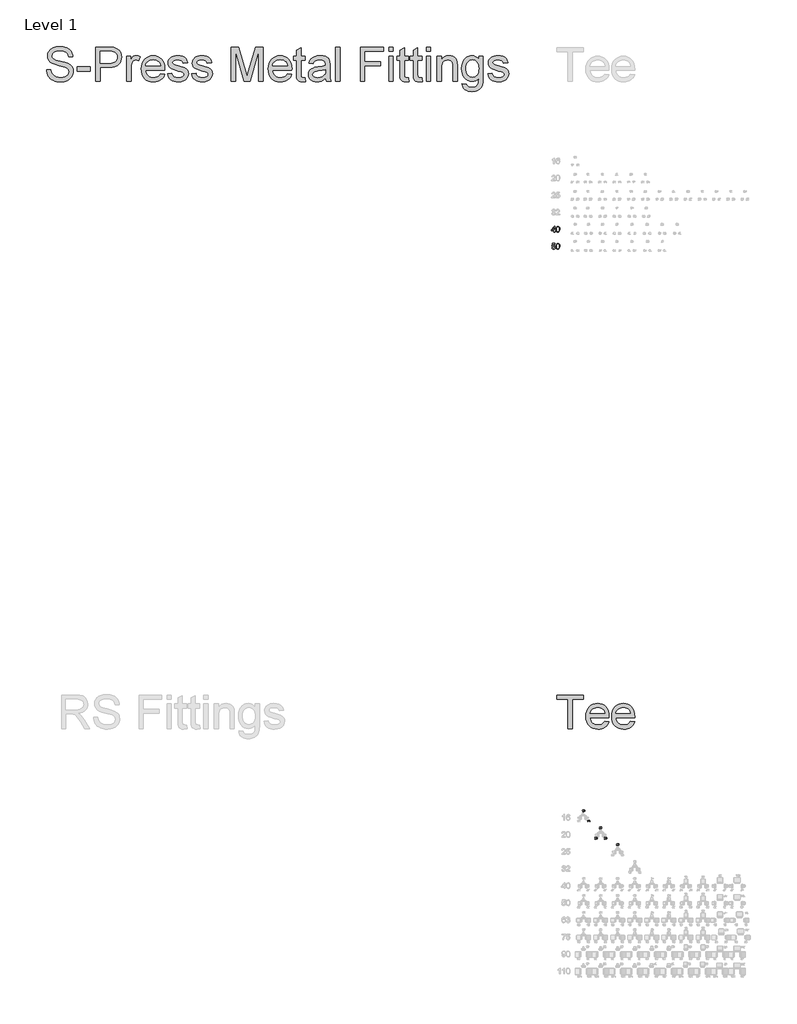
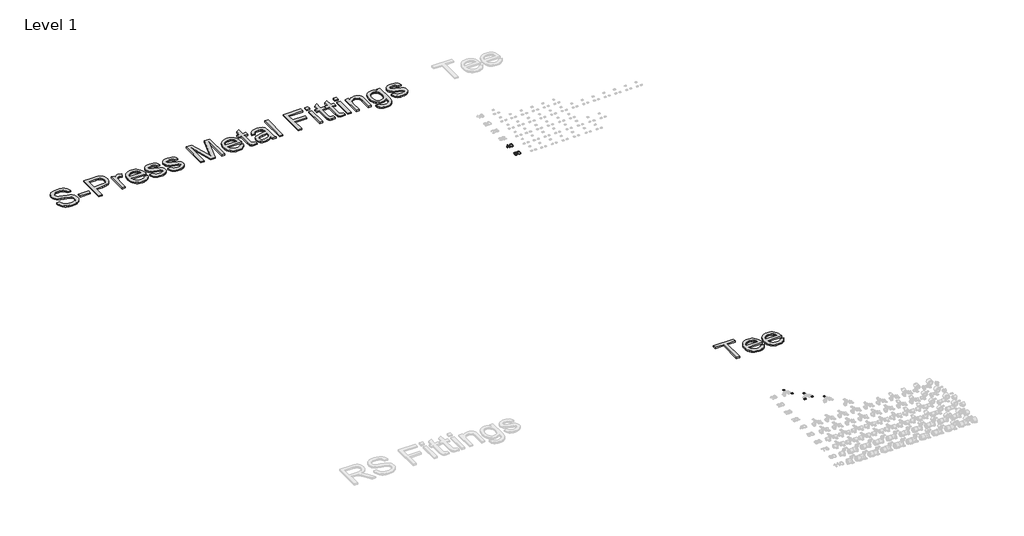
# One storey, part 26 of 58: 10 proxies.
"""IFC4 building model written with IfcOpenShell, lengths in millimetres."""

from ifc_helpers import new_model, si_unit, frame, origin, place, context, project, spatial, polyline, outline, extrude, element, save

model = new_model("IFC4")

# Units and contexts
model_context = context("Model", 3, world=origin())
ifc_project = project(units=[si_unit("LENGTHUNIT", "METRE", prefix="MILLI")], contexts=[model_context])

# Site, building, storey
site = spatial("IfcSite", under=ifc_project)
building = spatial("IfcBuilding", under=site)
storey = spatial("IfcBuildingStorey", under=building, Name="Level 1", Elevation=27.3876384)

# Proxies
placement = place(None, origin())
element("IfcBuildingElementProxy", 1, Name="100mm Arial", ObjectType="100mm Arial", at=placement, inside=storey, context=model_context, shape_type="SweptSolid", body=[
    extrude(outline(polyline([(12745.2918533, 28940.2967064), (12745.2918533, 28963.841154), (12699.7725878, 28963.841154), (12699.7725878, 28976.3981928), (12748.431113, 29039.1833867), (12757.8488921, 29039.1833867), (12757.8488921, 28976.3981928), (12770.4059308, 28976.3981928), (12770.4059308, 28963.841154), (12757.8488921, 28963.841154), (12757.8488921, 28940.2967064), (12745.2918533, 28940.2967064)]), holes=[polyline([(12745.2918533, 28976.3981928), (12745.2918533, 29015.1974806), (12715.2236316, 28976.3981928), (12745.2918533, 28976.3981928)])]), frame((0.0, 0.0, 27.3876384), z_axis=(0.0, 0.0, 1.0), x_axis=(1.0, 0.0, 0.0)), (0.0, 0.0, 1.0), 2.0),
    extrude(outline(polyline([(12781.3933398, 28989.715521), (12785.0844224, 29018.6187831), (12796.0473059, 29035.2838375), (12814.3555665, 29040.7530165), (12829.0217954, 29037.5156549), (12839.150813, 29028.183715), (12845.0369249, 29013.3212824), (12847.3177933, 28989.715521), (12843.6634988, 28960.9348863), (12832.7374036, 28944.2330437), (12824.5060439, 28940.1035683), (12814.3555665, 28938.7270765), (12801.3080184, 28941.1183095), (12791.39973, 28948.2920084), (12783.8949373, 28965.2820252), (12781.3933398, 28989.715521)]), holes=[polyline([(12793.9503785, 28989.7400465), (12795.4219065, 28969.987849), (12799.8364905, 28958.555916), (12806.4093154, 28953.1020655), (12814.3555665, 28951.2841153), (12822.3018176, 28953.1081968), (12828.8746426, 28958.5804415), (12833.2892265, 28970.0185059), (12834.7607545, 28989.7400465), (12833.3382775, 29009.0477199), (12829.0708463, 29020.5685577), (12822.5102841, 29026.2891227), (12814.2084137, 29028.1959777), (12806.3480018, 29026.5159833), (12800.0326942, 29021.476), (12795.4709574, 29009.2377923), (12793.9503785, 28989.7400465)])]), frame((0.0, 0.0, 27.3876384), z_axis=(0.0, 0.0, 1.0), x_axis=(1.0, 0.0, 0.0)), (0.0, 0.0, 1.0), 2.0),
])
element("IfcBuildingElementProxy", 2, Name="100mm Arial", ObjectType="100mm Arial", at=placement, inside=storey, context=model_context, shape_type="SweptSolid", body=[
    extrude(outline(polyline([(12704.4814773, 28666.9804137), (12717.0385161, 28668.5500436), (12723.3660864, 28655.6128601), (12736.4872109, 28651.2841153), (12745.488057, 28652.7893658), (12752.2325603, 28657.3051173), (12756.4448091, 28664.3102036), (12757.8488921, 28673.2834586), (12752.5881795, 28688.1949421), (12745.981632, 28692.2968264), (12736.6834146, 28693.6641211), (12725.6592175, 28691.4813546), (12718.6081459, 28685.8159719), (12706.0511071, 28687.3856017), (12717.0385161, 28739.1833867), (12765.6970413, 28739.1833867), (12765.6970413, 28726.6263479), (12727.1920591, 28726.6263479), (12721.820982, 28698.9616219), (12730.7911713, 28704.4062754), (12740.1905563, 28706.2211599), (12751.9229263, 28703.9709484), (12761.6626021, 28697.2203137), (12768.2200987, 28686.9318806), (12770.4059308, 28674.0682735), (12768.4377622, 28661.5112347), (12762.5332561, 28650.7690805), (12751.2270162, 28641.7375775), (12736.43816, 28638.7270765), (12724.1049161, 28640.6615227), (12714.2794011, 28646.4648611), (12707.5440949, 28655.4626416), (12704.4814773, 28666.9804137)])), frame((0.0, 0.0, 27.3876384), z_axis=(0.0, 0.0, 1.0), x_axis=(1.0, 0.0, 0.0)), (0.0, 0.0, 1.0), 2.0),
    extrude(outline(polyline([(12781.3933398, 28689.715521), (12785.0844224, 28718.6187831), (12796.0473059, 28735.2838375), (12814.3555665, 28740.7530165), (12829.0217954, 28737.5156549), (12839.150813, 28728.183715), (12845.0369249, 28713.3212824), (12847.3177933, 28689.715521), (12843.6634988, 28660.9348863), (12832.7374036, 28644.2330437), (12824.5060439, 28640.1035683), (12814.3555665, 28638.7270765), (12801.3080184, 28641.1183095), (12791.39973, 28648.2920084), (12783.8949373, 28665.2820252), (12781.3933398, 28689.715521)]), holes=[polyline([(12793.9503785, 28689.7400465), (12795.4219065, 28669.987849), (12799.8364905, 28658.555916), (12806.4093154, 28653.1020655), (12814.3555665, 28651.2841153), (12822.3018176, 28653.1081968), (12828.8746426, 28658.5804415), (12833.2892265, 28670.0185059), (12834.7607545, 28689.7400465), (12833.3382775, 28709.0477199), (12829.0708463, 28720.5685577), (12822.5102841, 28726.2891227), (12814.2084137, 28728.1959777), (12806.3480018, 28726.5159833), (12800.0326942, 28721.476), (12795.4709574, 28709.2377923), (12793.9503785, 28689.7400465)])]), frame((0.0, 0.0, 27.3876384), z_axis=(0.0, 0.0, 1.0), x_axis=(1.0, 0.0, 0.0)), (0.0, 0.0, 1.0), 2.0),
])
element("IfcBuildingElementProxy", 3, Name="30mm Arial", ObjectType="30mm Arial", at=placement, inside=storey, context=model_context, shape_type="SweptSolid", body=[
    extrude(outline(polyline([(13345.4120986, 18575.8288539), (13341.644987, 18575.8288539), (13341.644987, 18599.3144405), (13338.0765317, 18596.7723759), (13334.1107637, 18594.870426), (13334.1107637, 18598.4315237), (13339.6326725, 18601.9558332), (13342.9840775, 18605.965747), (13345.4120986, 18605.965747), (13345.4120986, 18575.8288539)])), frame((0.0, 0.0, 27.3876384), z_axis=(0.0, 0.0, 1.0), x_axis=(1.0, 0.0, 0.0)), (0.0, 0.0, 1.0), 2.0),
    extrude(outline(polyline([(13373.6654359, 18597.9606348), (13369.8983242, 18597.4897458), (13368.4709421, 18600.631458), (13364.6964728, 18602.1986353), (13361.2972432, 18601.286288), (13358.725748, 18597.8613066), (13357.6552114, 18591.1474602), (13360.9771859, 18594.1530561), (13365.0937854, 18595.135301), (13371.4949321, 18592.4497625), (13374.1363248, 18585.511508), (13372.8928837, 18580.3133355), (13369.4715811, 18576.6345155), (13364.5346047, 18575.357965), (13356.8569075, 18578.7424793), (13353.8880998, 18589.8966614), (13357.1843225, 18602.5297291), (13364.9319173, 18605.965747), (13370.884248, 18603.839389), (13373.6654359, 18597.9606348)]), holes=[polyline([(13357.6552114, 18585.5703692), (13358.5270918, 18582.3072559), (13360.8447483, 18579.9380958), (13364.2402992, 18579.1250766), (13368.6806348, 18580.8099761), (13370.3692132, 18585.3864282), (13368.7027078, 18589.7679027), (13364.0857887, 18591.3681894), (13359.5277308, 18589.7679027), (13357.6552114, 18585.5703692)])]), frame((0.0, 0.0, 27.3876384), z_axis=(0.0, 0.0, 1.0), x_axis=(1.0, 0.0, 0.0)), (0.0, 0.0, 1.0), 2.0),
])
element("IfcBuildingElementProxy", 4, Name="30mm Arial", ObjectType="30mm Arial", at=placement, inside=storey, context=model_context, shape_type="SweptSolid", body=[
    extrude(outline(polyline([(13258.5902834, 18754.6474945), (13254.8231718, 18754.6474945), (13254.8231718, 18778.1330811), (13251.2547165, 18775.5910165), (13247.2889486, 18773.6890666), (13247.2889486, 18777.2501643), (13252.8108573, 18780.7744738), (13256.1622623, 18784.7843875), (13258.5902834, 18784.7843875), (13258.5902834, 18754.6474945)])), frame((0.0, 0.0, 27.3876384), z_axis=(0.0, 0.0, 1.0), x_axis=(1.0, 0.0, 0.0)), (0.0, 0.0, 1.0), 2.0),
    extrude(outline(polyline([(13286.8436207, 18776.7792753), (13283.076509, 18776.3083864), (13281.6491269, 18779.4500986), (13277.8746576, 18781.0172759), (13274.475428, 18780.1049286), (13271.9039328, 18776.6799472), (13270.8333962, 18769.9661008), (13274.1553707, 18772.9716967), (13278.2719702, 18773.9539416), (13284.6731169, 18771.268403), (13287.3145096, 18764.3301486), (13286.0710685, 18759.131976), (13282.6497659, 18755.4531561), (13277.7127896, 18754.1766055), (13270.0350923, 18757.5611199), (13267.0662846, 18768.715302), (13270.3625073, 18781.3483697), (13278.1101021, 18784.7843875), (13284.0624328, 18782.6580296), (13286.8436207, 18776.7792753)]), holes=[polyline([(13270.8333962, 18764.3890097), (13271.7052766, 18761.1258964), (13274.0229331, 18758.7567364), (13277.418484, 18757.9437172), (13281.8588196, 18759.6286167), (13283.547398, 18764.2050687), (13281.8808926, 18768.5865433), (13277.2639735, 18770.18683), (13272.7059156, 18768.5865433), (13270.8333962, 18764.3890097)])]), frame((0.0, 0.0, 27.3876384), z_axis=(0.0, 0.0, 1.0), x_axis=(1.0, 0.0, 0.0)), (0.0, 0.0, 1.0), 2.0),
])
element("IfcBuildingElementProxy", 5, Name="30mm Arial", ObjectType="30mm Arial", at=placement, inside=storey, context=model_context, shape_type="SweptSolid", body=[
    extrude(outline(polyline([(13481.8418771, 18277.3459656), (13481.8418771, 18273.5788539), (13462.0645411, 18273.5788539), (13462.4692113, 18276.1761008), (13464.7574373, 18280.1749781), (13469.4736845, 18284.5417374), (13475.9778381, 18290.8178042), (13477.6038765, 18295.0852354), (13476.0698086, 18298.5396473), (13472.0635737, 18299.9486353), (13467.8881131, 18298.5727567), (13466.3025417, 18294.7688569), (13462.53543, 18295.2397458), (13465.4233037, 18301.5452432), (13472.1445077, 18303.715747), (13478.8877847, 18301.3024411), (13481.3709882, 18295.3133222), (13480.7014429, 18291.741188), (13478.4757569, 18288.0476528), (13473.078928, 18282.8862684), (13468.7452781, 18279.2626308), (13467.0456633, 18277.3459656), (13481.8418771, 18277.3459656)])), frame((0.0, 0.0, 27.3876384), z_axis=(0.0, 0.0, 1.0), x_axis=(1.0, 0.0, 0.0)), (0.0, 0.0, 1.0), 2.0),
    extrude(outline(polyline([(13485.6089888, 18288.4044983), (13486.7163136, 18297.075477), (13490.0051786, 18302.0749933), (13495.4976568, 18303.715747), (13499.8975255, 18302.7445385), (13502.9362307, 18299.9449565), (13504.7020643, 18295.4862267), (13505.3863248, 18288.4044983), (13504.2900365, 18279.7703079), (13501.0122079, 18274.7597551), (13495.4976568, 18273.107965), (13488.6109058, 18275.9774445), (13485.6089888, 18288.4044983)]), holes=[polyline([(13489.3761004, 18288.411856), (13491.141934, 18279.0566168), (13495.4976568, 18276.8750766), (13499.8533796, 18279.0639745), (13501.6192132, 18288.411856), (13499.9122407, 18297.6604093), (13495.453511, 18299.9486353), (13491.2007951, 18297.932642), (13489.3761004, 18288.411856)])]), frame((0.0, 0.0, 27.3876384), z_axis=(0.0, 0.0, 1.0), x_axis=(1.0, 0.0, 0.0)), (0.0, 0.0, 1.0), 2.0),
])
element("IfcBuildingElementProxy", 6, Name="30mm Arial", ObjectType="30mm Arial", at=placement, inside=storey, context=model_context, shape_type="SweptSolid", body=[
    extrude(outline(polyline([(13650.5918771, 18277.3459656), (13650.5918771, 18273.5788539), (13630.8145411, 18273.5788539), (13631.2192113, 18276.1761008), (13633.5074373, 18280.1749781), (13638.2236845, 18284.5417374), (13644.7278381, 18290.8178042), (13646.3538765, 18295.0852354), (13644.8198086, 18298.5396473), (13640.8135737, 18299.9486353), (13636.6381131, 18298.5727567), (13635.0525417, 18294.7688569), (13631.28543, 18295.2397458), (13634.1733037, 18301.5452432), (13640.8945077, 18303.715747), (13647.6377847, 18301.3024411), (13650.1209882, 18295.3133222), (13649.4514429, 18291.741188), (13647.2257569, 18288.0476528), (13641.828928, 18282.8862684), (13637.4952781, 18279.2626308), (13635.7956633, 18277.3459656), (13650.5918771, 18277.3459656)])), frame((0.0, 0.0, 27.3876384), z_axis=(0.0, 0.0, 1.0), x_axis=(1.0, 0.0, 0.0)), (0.0, 0.0, 1.0), 2.0),
    extrude(outline(polyline([(13654.3589888, 18288.4044983), (13655.4663136, 18297.075477), (13658.7551786, 18302.0749933), (13664.2476568, 18303.715747), (13668.6475255, 18302.7445385), (13671.6862307, 18299.9449565), (13673.4520643, 18295.4862267), (13674.1363248, 18288.4044983), (13673.0400365, 18279.7703079), (13669.7622079, 18274.7597551), (13664.2476568, 18273.107965), (13657.3609058, 18275.9774445), (13654.3589888, 18288.4044983)]), holes=[polyline([(13658.1261004, 18288.411856), (13659.891934, 18279.0566168), (13664.2476568, 18276.8750766), (13668.6033796, 18279.0639745), (13670.3692132, 18288.411856), (13668.6622407, 18297.6604093), (13664.203511, 18299.9486353), (13659.9507951, 18297.932642), (13658.1261004, 18288.411856)])]), frame((0.0, 0.0, 27.3876384), z_axis=(0.0, 0.0, 1.0), x_axis=(1.0, 0.0, 0.0)), (0.0, 0.0, 1.0), 2.0),
])
element("IfcBuildingElementProxy", 7, Name="30mm Arial", ObjectType="30mm Arial", at=placement, inside=storey, context=model_context, shape_type="SweptSolid", body=[
    extrude(outline(polyline([(13563.7700619, 18461.1646061), (13563.7700619, 18457.3974945), (13543.9927259, 18457.3974945), (13544.3973961, 18459.9947414), (13546.6856221, 18463.9936187), (13551.4018693, 18468.3603779), (13557.9060229, 18474.6364448), (13559.5320614, 18478.9038759), (13557.9979934, 18482.3582879), (13553.9917585, 18483.7672759), (13549.8162979, 18482.3913972), (13548.2307265, 18478.5874974), (13544.4636148, 18479.0583864), (13547.3514885, 18485.3638838), (13554.0726925, 18487.5343875), (13560.8159695, 18485.1210816), (13563.299173, 18479.1319628), (13562.6296278, 18475.5598286), (13560.4039417, 18471.8662934), (13555.0071128, 18466.704909), (13550.6734629, 18463.0812713), (13548.9738481, 18461.1646061), (13563.7700619, 18461.1646061)])), frame((0.0, 0.0, 27.3876384), z_axis=(0.0, 0.0, 1.0), x_axis=(1.0, 0.0, 0.0)), (0.0, 0.0, 1.0), 2.0),
    extrude(outline(polyline([(13567.5371736, 18472.2231389), (13568.6444984, 18480.8941175), (13571.9333634, 18485.8936338), (13577.4258416, 18487.5343875), (13581.8257103, 18486.5631791), (13584.8644155, 18483.7635971), (13586.6302491, 18479.3048673), (13587.3145096, 18472.2231389), (13586.2182213, 18463.5889485), (13582.9403927, 18458.5783957), (13577.4258416, 18456.9266055), (13570.5390906, 18459.7960851), (13567.5371736, 18472.2231389)]), holes=[polyline([(13571.3042852, 18472.2304965), (13573.0701188, 18462.8752574), (13577.4258416, 18460.6937172), (13581.7815644, 18462.882615), (13583.547398, 18472.2304965), (13581.8404255, 18481.4790499), (13577.3816958, 18483.7672759), (13573.1289799, 18481.7512826), (13571.3042852, 18472.2304965)])]), frame((0.0, 0.0, 27.3876384), z_axis=(0.0, 0.0, 1.0), x_axis=(1.0, 0.0, 0.0)), (0.0, 0.0, 1.0), 2.0),
])
element("IfcBuildingElementProxy", 8, Name="30mm Arial", ObjectType="30mm Arial", at=placement, inside=storey, context=model_context, shape_type="SweptSolid", body=[
    extrude(outline(polyline([(13864.7700619, 18165.1646061), (13864.7700619, 18161.3974945), (13844.9927259, 18161.3974945), (13845.3973961, 18163.9947414), (13847.6856221, 18167.9936187), (13852.4018693, 18172.3603779), (13858.9060229, 18178.6364448), (13860.5320614, 18182.9038759), (13858.9979934, 18186.3582879), (13854.9917585, 18187.7672759), (13850.8162979, 18186.3913972), (13849.2307265, 18182.5874974), (13845.4636148, 18183.0583864), (13848.3514885, 18189.3638838), (13855.0726925, 18191.5343875), (13861.8159695, 18189.1210816), (13864.299173, 18183.1319628), (13863.6296278, 18179.5598286), (13861.4039417, 18175.8662934), (13856.0071128, 18170.704909), (13851.6734629, 18167.0812713), (13849.9738481, 18165.1646061), (13864.7700619, 18165.1646061)])), frame((0.0, 0.0, 27.3876384), z_axis=(0.0, 0.0, 1.0), x_axis=(1.0, 0.0, 0.0)), (0.0, 0.0, 1.0), 2.0),
    extrude(outline(polyline([(13868.5371736, 18169.4026067), (13872.3042852, 18169.8734957), (13874.2025563, 18165.9923406), (13878.1388936, 18164.6937172), (13882.8624985, 18166.5000178), (13884.547398, 18171.2935202), (13882.9691842, 18175.7669652), (13878.1977548, 18177.4077189), (13874.8904956, 18176.752889), (13872.7751742, 18175.0532742), (13869.0080625, 18175.5241631), (13872.3042852, 18191.0634986), (13886.9018428, 18191.0634986), (13886.9018428, 18187.296387), (13875.3503481, 18187.296387), (13873.739025, 18178.9969691), (13879.2498973, 18181.1748306), (13885.691511, 18178.4745767), (13888.3145096, 18171.5289646), (13885.9527072, 18164.5392067), (13878.1241784, 18160.9266055), (13871.4765507, 18163.2479409), (13868.5371736, 18169.4026067)])), frame((0.0, 0.0, 27.3876384), z_axis=(0.0, 0.0, 1.0), x_axis=(1.0, 0.0, 0.0)), (0.0, 0.0, 1.0), 2.0),
])
element("IfcBuildingElementProxy", 9, Name="600mm Arial", ObjectType="600mm Arial", at=placement, inside=storey, context=model_context, shape_type="SweptSolid", body=[
    extrude(outline(polyline([(12993.1260296, 20213.7679008), (12993.1260296, 20730.6909777), (12799.2798757, 20730.6909777), (12799.2798757, 20804.5371316), (13260.8183372, 20804.5371316), (13260.8183372, 20730.6909777), (13066.9721834, 20730.6909777), (13066.9721834, 20213.7679008), (12993.1260296, 20213.7679008)])), frame((0.0, 0.0, 27.3876384), z_axis=(0.0, 0.0, 1.0), x_axis=(1.0, 0.0, 0.0)), (0.0, 0.0, 1.0), 30.0),
    extrude(outline(polyline([(13638.4144911, 20342.99867), (13710.8183372, 20333.7679008), (13699.7170752, 20304.7685018), (13684.7305969, 20279.2126123), (13665.8589022, 20257.1002325), (13643.1019911, 20238.4313623), (13616.6942387, 20223.6026364), (13586.8700199, 20213.0106893), (13553.6293348, 20206.655521), (13516.9721834, 20204.5371316), (13471.1518709, 20208.1924801), (13430.3255488, 20219.1585258), (13394.4932171, 20237.4352686), (13363.6548757, 20263.0227085), (13338.8561978, 20295.2087061), (13321.1428565, 20333.281122), (13310.5148517, 20377.2399561), (13306.9721834, 20427.0852085), (13310.5509094, 20478.6206652), (13321.2870872, 20524.0443431), (13339.1807171, 20563.3562422), (13364.2317988, 20596.5563623), (13394.9890103, 20622.9325643), (13430.0010296, 20641.7727085), (13469.2678565, 20653.076795), (13512.7894911, 20656.8448239), (13554.9093829, 20653.0858095), (13592.9998276, 20641.8087662), (13627.0608252, 20623.0136941), (13657.0923757, 20596.7005931), (13681.6070993, 20563.5725883), (13699.1176161, 20524.3328047), (13709.6239262, 20478.9812422), (13713.1260296, 20427.5179008), (13712.6933372, 20407.6140547), (13380.8183372, 20407.6140547), (13385.095681, 20378.1459056), (13393.6007892, 20352.3376123), (13406.3336618, 20330.1891748), (13423.2942988, 20311.7005931), (13443.5452002, 20297.124271), (13466.1488661, 20286.7126123), (13491.1052964, 20280.4656172), (13518.4144911, 20278.3832854), (13557.7173757, 20282.2414585), (13590.8183372, 20293.8159777), (13617.7173757, 20313.827997), (13638.4144911, 20342.99867)]), holes=[polyline([(13380.8183372, 20481.4602085), (13639.2798757, 20481.4602085), (13629.2918949, 20520.4746316), (13620.7011497, 20535.8171797), (13609.712568, 20548.3832854), (13589.5743469, 20563.5275162), (13566.6596834, 20574.3448239), (13540.9685776, 20580.8352085), (13512.5010296, 20582.99867), (13486.5349839, 20581.272408), (13462.7233853, 20576.093622), (13441.0662339, 20567.4623119), (13421.5635296, 20555.3784777), (13405.1978445, 20540.4010138), (13392.9517507, 20523.0888143), (13384.8252483, 20503.4418792), (13380.8183372, 20481.4602085)])]), frame((0.0, 0.0, 27.3876384), z_axis=(0.0, 0.0, 1.0), x_axis=(1.0, 0.0, 0.0)), (0.0, 0.0, 1.0), 30.0),
    extrude(outline(polyline([(14090.7221834, 20342.99867), (14163.1260296, 20333.7679008), (14152.0247675, 20304.7685018), (14137.0382892, 20279.2126123), (14118.1665945, 20257.1002325), (14095.4096834, 20238.4313623), (14069.001931, 20223.6026364), (14039.1777122, 20213.0106893), (14005.9370272, 20206.655521), (13969.2798757, 20204.5371316), (13923.4595632, 20208.1924801), (13882.6332411, 20219.1585258), (13846.8009094, 20237.4352686), (13815.962568, 20263.0227085), (13791.1638901, 20295.2087061), (13773.4505488, 20333.281122), (13762.822544, 20377.2399561), (13759.2798757, 20427.0852085), (13762.8586017, 20478.6206652), (13773.5947796, 20524.0443431), (13791.4884094, 20563.3562422), (13816.5394911, 20596.5563623), (13847.2967026, 20622.9325643), (13882.3087219, 20641.7727085), (13921.5755488, 20653.076795), (13965.0971834, 20656.8448239), (14007.2170752, 20653.0858095), (14045.3075199, 20641.8087662), (14079.3685175, 20623.0136941), (14109.400068, 20596.7005931), (14133.9147916, 20563.5725883), (14151.4253084, 20524.3328047), (14161.9316185, 20478.9812422), (14165.4337219, 20427.5179008), (14165.0010296, 20407.6140547), (13833.1260296, 20407.6140547), (13837.4033733, 20378.1459056), (13845.9084815, 20352.3376123), (13858.6413541, 20330.1891748), (13875.6019911, 20311.7005931), (13895.8528925, 20297.124271), (13918.4565584, 20286.7126123), (13943.4129887, 20280.4656172), (13970.7221834, 20278.3832854), (14010.025068, 20282.2414585), (14043.1260296, 20293.8159777), (14070.025068, 20313.827997), (14090.7221834, 20342.99867)]), holes=[polyline([(13833.1260296, 20481.4602085), (14091.587568, 20481.4602085), (14081.5995872, 20520.4746316), (14073.0088421, 20535.8171797), (14062.0202603, 20548.3832854), (14041.8820392, 20563.5275162), (14018.9673757, 20574.3448239), (13993.2762699, 20580.8352085), (13964.8087219, 20582.99867), (13938.8426762, 20581.272408), (13915.0310776, 20576.093622), (13893.3739262, 20567.4623119), (13873.8712219, 20555.3784777), (13857.5055368, 20540.4010138), (13845.259443, 20523.0888143), (13837.1329406, 20503.4418792), (13833.1260296, 20481.4602085)])]), frame((0.0, 0.0, 27.3876384), z_axis=(0.0, 0.0, 1.0), x_axis=(1.0, 0.0, 0.0)), (0.0, 0.0, 1.0), 30.0),
])
element("IfcBuildingElementProxy", 10, Name="600mm Arial", ObjectType="600mm Arial", at=placement, inside=storey, context=model_context, shape_type="SweptSolid", body=[
    extrude(outline(polyline([(3822.5326656, 31795.0596989), (3897.8748982, 31795.0596989), (3906.5201251, 31753.2499101), (3922.1551099, 31719.6438899), (3946.5456861, 31692.9724452), (3981.4576875, 31671.9663833), (4024.1319989, 31658.3363554), (4071.8095055, 31653.7930127), (4113.7848412, 31657.2327094), (4150.5362525, 31667.5517993), (4180.3163, 31683.8857599), (4201.3775442, 31705.3700685), (4213.9039261, 31730.0365562), (4218.0793868, 31755.9170546), (4214.9523898, 31781.1353654), (4205.571399, 31802.9323736), (4186.5151116, 31821.5288084), (4154.3622252, 31837.1453991), (4044.6598143, 31865.9137711), (3972.6469137, 31884.9516644), (3926.5696938, 31903.0698527), (3889.0641244, 31928.4169221), (3862.4846503, 31959.1350687), (3846.6473304, 31994.5621049), (3841.3682237, 32034.0358429), (3843.0007001, 32056.4720461), (3847.8981291, 32078.1632883), (3856.0605109, 32099.1095694), (3867.4878454, 32119.3108894), (3882.0513739, 32137.9441125), (3899.6223377, 32154.1861026), (3920.2007368, 32168.0368597), (3943.7865712, 32179.4963838), (3996.7983667, 32194.8922453), (4055.4755449, 32200.0241992), (4119.0455537, 32194.653122), (4174.6693114, 32178.5398906), (4199.0047053, 32166.5377406), (4220.3602552, 32152.0155988), (4238.7359608, 32134.9734654), (4254.1318223, 32115.4113403), (4266.428278, 32093.8994406), (4275.5057662, 32071.0079835), (4281.364287, 32046.7369688), (4284.0038403, 32021.0863967), (4208.6616077, 32021.0863967), (4203.6216244, 32045.1274851), (4194.8292447, 32066.0415765), (4182.2844687, 32083.828671), (4165.9872963, 32098.4887685), (4145.6342249, 32109.9482926), (4120.9217519, 32118.133667), (4091.8498772, 32123.0448917), (4058.4186009, 32124.6819666), (4023.9204668, 32123.0632858), (3994.4439219, 32118.2072434), (3969.9889663, 32110.1138395), (3950.5555999, 32098.7830741), (3935.7483496, 32085.1622432), (3925.1717422, 32070.1986431), (3918.8257778, 32053.8922736), (3916.7104563, 32036.2431349), (3918.2095755, 32021.0588056), (3922.7069329, 32007.2908219), (3930.2025285, 31994.9391839), (3940.6963624, 31984.0038916), (3957.214264, 31973.6480134), (3983.2235211, 31963.1817707), (4063.7161016, 31941.9181914), (4146.7838561, 31921.7214698), (4197.0365367, 31904.0999222), (4239.9867596, 31876.76629), (4256.5920332, 31860.6990439), (4269.9507481, 31843.031511), (4280.2192543, 31823.855662), (4287.5539016, 31803.2634674), (4293.4216194, 31757.830041), (4291.7339607, 31734.2626006), (4286.6709848, 31711.3849391), (4278.2326915, 31689.1970562), (4266.419081, 31667.6989521), (4251.4370867, 31647.7229598), (4233.4936424, 31630.1014122), (4212.588748, 31614.8343094), (4188.7224036, 31601.9216514), (4162.5889863, 31591.6531452), (4134.8828736, 31584.3184979), (4074.7525615, 31578.4507801), (4036.2123239, 31580.0326727), (4000.9370391, 31584.7783504), (3968.926707, 31592.6878133), (3940.1813276, 31603.7610614), (3914.526157, 31618.0164887), (3891.7864512, 31635.4724894), (3871.9622102, 31656.1290634), (3855.0534339, 31679.9862108), (3841.4326031, 31706.2713793), (3831.4721981, 31734.2120169), (3825.1722189, 31763.8081234), (3822.5326656, 31795.0596989)])), frame((0.0, 0.0, 27.3876384), z_axis=(0.0, 0.0, 1.0), x_axis=(1.0, 0.0, 0.0)), (0.0, 0.0, 1.0), 30.0),
    extrude(outline(polyline([(4359.3460729, 31766.8063616), (4359.3460729, 31842.1485943), (4594.7905499, 31842.1485943), (4594.7905499, 31766.8063616), (4359.3460729, 31766.8063616)])), frame((0.0, 0.0, 27.3876384), z_axis=(0.0, 0.0, 1.0), x_axis=(1.0, 0.0, 0.0)), (0.0, 0.0, 1.0), 30.0),
    extrude(outline(polyline([(4688.9683406, 31587.8685592), (4688.9683406, 32190.6064201), (4912.3462881, 32190.6064201), (4964.3648022, 32189.1716803), (5002.4038005, 32184.867461), (5042.5581203, 32174.1437008), (5075.6123175, 32156.6877001), (5102.2285799, 32131.7085127), (5123.0690949, 32098.4151921), (5136.5335759, 32059.1437891), (5141.0217363, 32016.2303544), (5137.9913084, 31979.2306227), (5128.9000245, 31945.1923411), (5113.7478849, 31914.1155096), (5092.5348893, 31886.0001281), (5063.4124309, 31862.6948037), (5024.5319025, 31846.0481434), (4975.8933042, 31836.0601472), (4917.496636, 31832.7308152), (4764.3105732, 31832.7308152), (4764.3105732, 31587.8685592), (4688.9683406, 31587.8685592)]), holes=[polyline([(4764.3105732, 31908.0730478), (4921.91122, 31908.0730478), (4958.1475965, 31909.8020932), (4988.7185903, 31914.9892293), (5013.6242014, 31923.6344562), (5032.8644297, 31935.7377738), (5047.2210246, 31950.9772855), (5057.4757352, 31969.0310944), (5063.6285616, 31989.8992006), (5065.6795037, 32013.581604), (5060.8418554, 32047.4267476), (5046.3289107, 32075.9743904), (5023.9432913, 32097.4586989), (4995.487619, 32110.1138395), (4966.4249414, 32113.9766005), (4920.1453864, 32115.2641875), (4764.3105732, 32115.2641875), (4764.3105732, 31908.0730478)])]), frame((0.0, 0.0, 27.3876384), z_axis=(0.0, 0.0, 1.0), x_axis=(1.0, 0.0, 0.0)), (0.0, 0.0, 1.0), 30.0),
    extrude(outline(polyline([(5235.1995271, 31587.8685592), (5235.1995271, 32030.5041758), (5301.1239806, 32030.5041758), (5301.1239806, 31965.0211806), (5325.4777687, 32002.9866025), (5347.9185704, 32025.3538279), (5370.4329485, 32036.2799231), (5395.0074658, 32039.9219549), (5432.5314293, 32034.1094193), (5470.644004, 32016.6718128), (5445.4808755, 31949.1286785), (5418.9933718, 31960.7169613), (5392.5058682, 31964.5797223), (5370.0098842, 31960.8641141), (5349.9051331, 31949.7172896), (5333.6631431, 31931.9853775), (5322.7554419, 31908.5145062), (5313.5951802, 31866.4288059), (5310.5417597, 31820.5171329), (5310.5417597, 31587.8685592), (5235.1995271, 31587.8685592)])), frame((0.0, 0.0, 27.3876384), z_axis=(0.0, 0.0, 1.0), x_axis=(1.0, 0.0, 0.0)), (0.0, 0.0, 1.0), 30.0),
    extrude(outline(polyline([(5827.6366921, 31719.7174663), (5901.5073967, 31710.2996872), (5890.1812298, 31680.7127777), (5874.8911344, 31654.6391413), (5855.6371104, 31632.078778), (5832.419158, 31613.0316877), (5805.4764004, 31597.9025406), (5775.0479609, 31587.096007), (5741.1338394, 31580.6120868), (5703.7340361, 31578.4507801), (5656.9854316, 31582.1801838), (5615.3319927, 31593.368395), (5578.7737194, 31612.0154137), (5547.3106118, 31638.1212397), (5522.0095275, 31670.9593063), (5503.9373245, 31709.8030465), (5493.0940027, 31754.6524602), (5489.4795621, 31805.5075475), (5493.1307909, 31858.0870817), (5504.0844773, 31904.431016), (5522.3406213, 31944.5393506), (5547.899223, 31978.4120853), (5579.2795571, 32005.3226532), (5615.0008989, 32024.5444875), (5655.0632481, 32036.077588), (5699.466605, 32039.9219549), (5742.4398205, 32036.0867851), (5781.3019548, 32024.5812757), (5816.0530078, 32005.4054267), (5846.6929794, 31978.5592381), (5871.7043566, 31944.7600798), (5889.569626, 31904.7253216), (5900.2887876, 31858.4549637), (5903.8618415, 31805.9490059), (5903.4203831, 31785.6419198), (5564.8217947, 31785.6419198), (5569.1857949, 31755.5767637), (5577.8632115, 31729.2456099), (5590.8540444, 31706.6484584), (5608.1582938, 31687.7853091), (5628.8194663, 31672.9136794), (5651.8810689, 31662.2910868), (5677.3431015, 31655.9175313), (5705.2055641, 31653.7930127), (5745.3047016, 31657.7293501), (5779.0762687, 31669.5383621), (5806.5202656, 31689.9558129), (5827.6366921, 31719.7174663)]), holes=[polyline([(5564.8217947, 31860.9841524), (5828.5196089, 31860.9841524), (5818.3292776, 31900.7889843), (5809.5644891, 31916.4423632), (5798.3532853, 31929.2630507), (5777.8070758, 31944.7140945), (5754.428175, 31955.7505544), (5728.2165829, 31962.3724303), (5699.1722994, 31964.5797223), (5672.6801972, 31962.8184872), (5648.3861899, 31957.534782), (5626.2902776, 31948.7286068), (5606.3924602, 31936.3999614), (5589.6952161, 31921.119063), (5577.2010239, 31903.4561288), (5568.9098834, 31883.4111585), (5564.8217947, 31860.9841524)])]), frame((0.0, 0.0, 27.3876384), z_axis=(0.0, 0.0, 1.0), x_axis=(1.0, 0.0, 0.0)), (0.0, 0.0, 1.0), 30.0),
    extrude(outline(polyline([(5950.9507369, 31719.7174663), (6026.2929695, 31729.1352453), (6030.8455092, 31711.9551562), (6038.1755579, 31696.9087826), (6048.2831157, 31683.9961245), (6061.1681826, 31673.2171821), (6076.8675468, 31664.719108), (6095.4179964, 31658.6490551), (6141.072152, 31653.7930127), (6186.1744846, 31658.2443849), (6203.7040617, 31663.8086), (6217.8859126, 31671.5985013), (6236.6478943, 31690.9490942), (6241.3383898, 31701.783219), (6242.9018882, 31713.3898959), (6241.3291927, 31723.5618331), (6236.6111061, 31732.5933361), (6217.7387598, 31747.2350395), (6189.5222107, 31756.7999714), (6140.1892352, 31768.719348), (6071.4320903, 31788.6033699), (6026.7344279, 31805.5811239), (5998.0212382, 31824.1039824), (5977.2175113, 31848.6233174), (5964.5807648, 31877.5756304), (5960.3685159, 31909.397423), (5963.7530303, 31938.5888593), (5973.9065734, 31965.5362154), (5989.9094402, 31989.1726336), (6010.8419257, 32008.4312561), (6031.6456525, 32020.5529678), (6058.7401615, 32030.724905), (6090.0653133, 32037.6226924), (6123.560969, 32039.9219549), (6172.599639, 32036.2247408), (6215.2371622, 32025.1330987), (6249.5237642, 32007.7322803), (6273.5096702, 31985.1075376), (6289.4021724, 31955.5850075), (6299.4085627, 31917.4908269), (6224.0663301, 31908.0730478), (6214.5565805, 31931.7830424), (6195.7394165, 31949.6437132), (6167.4308969, 31960.84572), (6129.4470809, 31964.5797223), (6086.1841583, 31961.0112669), (6057.3422099, 31950.3059008), (6041.1186139, 31934.854857), (6035.7107486, 31917.0493685), (6037.9548287, 31905.4610856), (6044.6870692, 31895.1236016), (6056.2017757, 31885.8897635), (6072.7932537, 31878.4953354), (6137.6876376, 31862.4556804), (6248.2729654, 31826.9918561), (6277.4827958, 31810.0324961), (6299.6292919, 31786.8191422), (6313.5904136, 31757.278218), (6318.2441209, 31721.336147), (6312.7810732, 31684.1800655), (6296.3919303, 31649.231276), (6269.7020916, 31619.2304993), (6233.3369564, 31596.9184563), (6189.4118461, 31583.0676992), (6140.0420824, 31578.4507801), (6099.4922895, 31580.6764662), (6064.0744504, 31587.3535244), (6033.7885651, 31598.4819548), (6008.6346337, 31614.0617572), (5988.0884243, 31634.0193555), (5971.625705, 31658.2811731), (5959.2464759, 31686.84721), (5950.9507369, 31719.7174663)])), frame((0.0, 0.0, 27.3876384), z_axis=(0.0, 0.0, 1.0), x_axis=(1.0, 0.0, 0.0)), (0.0, 0.0, 1.0), 30.0),
    extrude(outline(polyline([(6374.7507953, 31719.7174663), (6450.0930279, 31729.1352453), (6454.6455676, 31711.9551562), (6461.9756164, 31696.9087826), (6472.0831742, 31683.9961245), (6484.9682411, 31673.2171821), (6500.6676052, 31664.719108), (6519.2180548, 31658.6490551), (6564.8722104, 31653.7930127), (6609.974543, 31658.2443849), (6627.5041201, 31663.8086), (6641.685971, 31671.5985013), (6660.4479528, 31690.9490942), (6665.1384482, 31701.783219), (6666.7019467, 31713.3898959), (6665.1292512, 31723.5618331), (6660.4111646, 31732.5933361), (6641.5388182, 31747.2350395), (6613.3222692, 31756.7999714), (6563.9892936, 31768.719348), (6495.2321487, 31788.6033699), (6450.5344863, 31805.5811239), (6421.8212966, 31824.1039824), (6401.0175698, 31848.6233174), (6388.3808232, 31877.5756304), (6384.1685744, 31909.397423), (6387.5530887, 31938.5888593), (6397.7066318, 31965.5362154), (6413.7094986, 31989.1726336), (6434.6419841, 32008.4312561), (6455.445711, 32020.5529678), (6482.5402199, 32030.724905), (6513.8653718, 32037.6226924), (6547.3610275, 32039.9219549), (6596.3996974, 32036.2247408), (6639.0372206, 32025.1330987), (6673.3238226, 32007.7322803), (6697.3097287, 31985.1075376), (6713.2022309, 31955.5850075), (6723.2086211, 31917.4908269), (6647.8663885, 31908.0730478), (6638.356639, 31931.7830424), (6619.5394749, 31949.6437132), (6591.2309554, 31960.84572), (6553.2471394, 31964.5797223), (6509.9842167, 31961.0112669), (6481.1422683, 31950.3059008), (6464.9186723, 31934.854857), (6459.510807, 31917.0493685), (6461.7548872, 31905.4610856), (6468.4871277, 31895.1236016), (6480.0018341, 31885.8897635), (6496.5933121, 31878.4953354), (6561.4876961, 31862.4556804), (6672.0730238, 31826.9918561), (6701.2828542, 31810.0324961), (6723.4293503, 31786.8191422), (6737.3904721, 31757.278218), (6742.0441793, 31721.336147), (6736.5811317, 31684.1800655), (6720.1919888, 31649.231276), (6693.50215, 31619.2304993), (6657.1370148, 31596.9184563), (6613.2119046, 31583.0676992), (6563.8421408, 31578.4507801), (6523.2923479, 31580.6764662), (6487.8745088, 31587.3535244), (6457.5886236, 31598.4819548), (6432.4346922, 31614.0617572), (6411.8884827, 31634.0193555), (6395.4257634, 31658.2811731), (6383.0465343, 31686.84721), (6374.7507953, 31719.7174663)])), frame((0.0, 0.0, 27.3876384), z_axis=(0.0, 0.0, 1.0), x_axis=(1.0, 0.0, 0.0)), (0.0, 0.0, 1.0), 30.0),
    extrude(outline(polyline([(7071.666447, 31587.8685592), (7071.666447, 32190.6064201), (7201.3080621, 32190.6064201), (7324.6221069, 31765.7762921), (7349.4909297, 31677.0431548), (7376.4198918, 31773.133932), (7497.6737974, 32190.6064201), (7627.3154125, 32190.6064201), (7627.3154125, 31587.8685592), (7551.9731799, 31587.8685592), (7551.9731799, 32115.2641875), (7400.5529507, 31587.8685592), (7298.4289088, 31587.8685592), (7147.0086796, 32115.2641875), (7147.0086796, 31587.8685592), (7071.666447, 31587.8685592)])), frame((0.0, 0.0, 27.3876384), z_axis=(0.0, 0.0, 1.0), x_axis=(1.0, 0.0, 0.0)), (0.0, 0.0, 1.0), 30.0),
    extrude(outline(polyline([(8059.6503332, 31719.7174663), (8133.5210379, 31710.2996872), (8122.1948709, 31680.7127777), (8106.9047755, 31654.6391413), (8087.6507516, 31632.078778), (8064.4327992, 31613.0316877), (8037.4900415, 31597.9025406), (8007.061602, 31587.096007), (7973.1474806, 31580.6120868), (7935.7476772, 31578.4507801), (7888.9990727, 31582.1801838), (7847.3456338, 31593.368395), (7810.7873605, 31612.0154137), (7779.3242529, 31638.1212397), (7754.0231687, 31670.9593063), (7735.9509657, 31709.8030465), (7725.1076439, 31754.6524602), (7721.4932033, 31805.5075475), (7725.1444321, 31858.0870817), (7736.0981185, 31904.431016), (7754.3542625, 31944.5393506), (7779.9128641, 31978.4120853), (7811.2931983, 32005.3226532), (7847.01454, 32024.5444875), (7887.0768893, 32036.077588), (7931.4802461, 32039.9219549), (7974.4534617, 32036.0867851), (8013.3155959, 32024.5812757), (8048.0666489, 32005.4054267), (8078.7066206, 31978.5592381), (8103.7179977, 31944.7600798), (8121.5832671, 31904.7253216), (8132.3024287, 31858.4549637), (8135.8754826, 31805.9490059), (8135.4340242, 31785.6419198), (7796.8354359, 31785.6419198), (7801.199436, 31755.5767637), (7809.8768526, 31729.2456099), (7822.8676856, 31706.6484584), (7840.1719349, 31687.7853091), (7860.8331075, 31672.9136794), (7883.89471, 31662.2910868), (7909.3567426, 31655.9175313), (7937.2192052, 31653.7930127), (7977.3183427, 31657.7293501), (8011.0899099, 31669.5383621), (8038.5339067, 31689.9558129), (8059.6503332, 31719.7174663)]), holes=[polyline([(7796.8354359, 31860.9841524), (8060.53325, 31860.9841524), (8050.3429187, 31900.7889843), (8041.5781302, 31916.4423632), (8030.3669264, 31929.2630507), (8009.820717, 31944.7140945), (7986.4418162, 31955.7505544), (7960.230224, 31962.3724303), (7931.1859405, 31964.5797223), (7904.6938383, 31962.8184872), (7880.3998311, 31957.534782), (7858.3039187, 31948.7286068), (7838.4061013, 31936.3999614), (7821.7088573, 31921.119063), (7809.214665, 31903.4561288), (7800.9235245, 31883.4111585), (7796.8354359, 31860.9841524)])]), frame((0.0, 0.0, 27.3876384), z_axis=(0.0, 0.0, 1.0), x_axis=(1.0, 0.0, 0.0)), (0.0, 0.0, 1.0), 30.0),
    extrude(outline(polyline([(8371.3199595, 31650.702804), (8380.7377386, 31585.6612672), (8324.378217, 31578.4507801), (8288.2154168, 31581.5777771), (8261.2496666, 31590.958768), (8242.1933792, 31605.4165304), (8229.7589678, 31623.7738419), (8222.9163627, 31655.3013289), (8220.6354943, 31709.2696176), (8220.6354943, 31955.1619432), (8164.1288199, 31955.1619432), (8164.1288199, 32030.5041758), (8220.6354943, 32030.5041758), (8220.6354943, 32138.0728712), (8295.9777269, 32182.3658634), (8295.9777269, 32030.5041758), (8371.3199595, 32030.5041758), (8371.3199595, 31955.1619432), (8295.9777269, 31955.1619432), (8295.9777269, 31711.4769096), (8299.9508525, 31672.6285709), (8312.8267223, 31658.8697843), (8323.6976353, 31655.0622056), (8338.5048856, 31653.7930127), (8371.3199595, 31650.702804)])), frame((0.0, 0.0, 27.3876384), z_axis=(0.0, 0.0, 1.0), x_axis=(1.0, 0.0, 0.0)), (0.0, 0.0, 1.0), 30.0),
    extrude(outline(polyline([(8729.1955644, 31644.3752337), (8693.1983112, 31613.5099343), (8656.1342002, 31593.3132127), (8617.1571028, 31582.1663883), (8575.4208905, 31578.4507801), (8541.874651, 31580.6856632), (8512.457887, 31587.3903126), (8487.1705983, 31598.5647282), (8466.0127851, 31614.20891), (8449.306344, 31633.3295767), (8437.3731718, 31654.9334469), (8430.2132684, 31679.0205205), (8427.826634, 31705.5907976), (8431.4318775, 31736.823979), (8442.2476082, 31765.1876809), (8458.9310567, 31789.4678925), (8480.1394537, 31808.4506035), (8505.0634589, 31822.7980013), (8532.8937318, 31833.1722736), (8598.0824214, 31844.503039), (8675.1169112, 31856.4224157), (8728.7541061, 31870.4019315), (8729.1955644, 31887.1773505), (8724.0084283, 31920.8017648), (8717.5245081, 31933.2545704), (8708.4470199, 31942.8011081), (8692.7568528, 31952.3292518), (8673.6453832, 31959.1350687), (8625.1585362, 31964.5797223), (8580.2769328, 31960.9560846), (8548.9333868, 31950.0851716), (8527.5594429, 31929.9804206), (8512.5866457, 31898.6552687), (8437.2444131, 31908.0730478), (8450.322618, 31949.2758313), (8469.8387578, 31981.6494468), (8497.6138485, 32006.4079051), (8535.4689058, 32024.7652167), (8581.7668549, 32036.1327703), (8634.8706209, 32039.9219549), (8685.8038831, 32036.5742287), (8726.1789321, 32026.5310502), (8756.6211672, 32011.4294943), (8777.7559878, 31992.9066359), (8791.7722918, 31970.0059817), (8800.8589771, 31941.7710386), (8804.5377971, 31875.846585), (8804.5377971, 31782.1102526), (8808.3637698, 31651.2178388), (8814.0291525, 31618.8626173), (8823.3733552, 31587.8685592), (8748.0311226, 31587.8685592), (8735.9645932, 31614.0617572), (8729.1955644, 31644.3752337)]), holes=[polyline([(8729.1955644, 31795.0596989), (8678.5750019, 31782.5149228), (8607.6473532, 31771.9567096), (8542.8265457, 31759.7430273), (8525.9591562, 31751.392106), (8513.4695625, 31739.8773996), (8505.7440406, 31726.0818248), (8503.1688666, 31710.8882984), (8508.779067, 31688.4842849), (8525.6096683, 31670.1269733), (8553.2927885, 31657.8765029), (8591.4605455, 31653.7930127), (8631.9275649, 31658.2995672), (8667.6856949, 31671.8192305), (8696.6747961, 31691.7400405), (8716.8347294, 31715.4500351), (8725.7742619, 31739.8773996), (8728.7541061, 31773.7225432), (8729.1955644, 31795.0596989)])]), frame((0.0, 0.0, 27.3876384), z_axis=(0.0, 0.0, 1.0), x_axis=(1.0, 0.0, 0.0)), (0.0, 0.0, 1.0), 30.0),
    extrude(outline(polyline([(8908.1333669, 31587.8685592), (8908.1333669, 32190.6064201), (8983.4755995, 32190.6064201), (8983.4755995, 31587.8685592), (8908.1333669, 31587.8685592)])), frame((0.0, 0.0, 27.3876384), z_axis=(0.0, 0.0, 1.0), x_axis=(1.0, 0.0, 0.0)), (0.0, 0.0, 1.0), 30.0),
    extrude(outline(polyline([(9341.3512044, 31587.8685592), (9341.3512044, 32190.6064201), (9746.3157047, 32190.6064201), (9746.3157047, 32115.2641875), (9416.693437, 32115.2641875), (9416.693437, 31936.326385), (9699.2268093, 31936.326385), (9699.2268093, 31860.9841524), (9416.693437, 31860.9841524), (9416.693437, 31587.8685592), (9341.3512044, 31587.8685592)])), frame((0.0, 0.0, 27.3876384), z_axis=(0.0, 0.0, 1.0), x_axis=(1.0, 0.0, 0.0)), (0.0, 0.0, 1.0), 30.0),
    extrude(outline(polyline([(9840.4934955, 32115.2641875), (9840.4934955, 32190.6064201), (9915.8357281, 32190.6064201), (9915.8357281, 32115.2641875), (9840.4934955, 32115.2641875)])), frame((0.0, 0.0, 27.3876384), z_axis=(0.0, 0.0, 1.0), x_axis=(1.0, 0.0, 0.0)), (0.0, 0.0, 1.0), 30.0),
    extrude(outline(polyline([(9840.4934955, 31587.8685592), (9840.4934955, 32030.5041758), (9915.8357281, 32030.5041758), (9915.8357281, 31587.8685592), (9840.4934955, 31587.8685592)])), frame((0.0, 0.0, 27.3876384), z_axis=(0.0, 0.0, 1.0), x_axis=(1.0, 0.0, 0.0)), (0.0, 0.0, 1.0), 30.0),
    extrude(outline(polyline([(10188.9513213, 31650.702804), (10198.3691004, 31585.6612672), (10142.0095787, 31578.4507801), (10105.8467786, 31581.5777771), (10078.8810283, 31590.958768), (10059.824741, 31605.4165304), (10047.3903296, 31623.7738419), (10040.5477245, 31655.3013289), (10038.2668561, 31709.2696176), (10038.2668561, 31955.1619432), (9981.7601816, 31955.1619432), (9981.7601816, 32030.5041758), (10038.2668561, 32030.5041758), (10038.2668561, 32138.0728712), (10113.6090887, 32182.3658634), (10113.6090887, 32030.5041758), (10188.9513213, 32030.5041758), (10188.9513213, 31955.1619432), (10113.6090887, 31955.1619432), (10113.6090887, 31711.4769096), (10117.5822142, 31672.6285709), (10130.4580841, 31658.8697843), (10141.328997, 31655.0622056), (10156.1362473, 31653.7930127), (10188.9513213, 31650.702804)])), frame((0.0, 0.0, 27.3876384), z_axis=(0.0, 0.0, 1.0), x_axis=(1.0, 0.0, 0.0)), (0.0, 0.0, 1.0), 30.0),
    extrude(outline(polyline([(10424.3957982, 31650.702804), (10433.8135773, 31585.6612672), (10377.4540556, 31578.4507801), (10341.2912555, 31581.5777771), (10314.3255053, 31590.958768), (10295.2692179, 31605.4165304), (10282.8348065, 31623.7738419), (10275.9922014, 31655.3013289), (10273.711333, 31709.2696176), (10273.711333, 31955.1619432), (10217.2046585, 31955.1619432), (10217.2046585, 32030.5041758), (10273.711333, 32030.5041758), (10273.711333, 32138.0728712), (10349.0535656, 32182.3658634), (10349.0535656, 32030.5041758), (10424.3957982, 32030.5041758), (10424.3957982, 31955.1619432), (10349.0535656, 31955.1619432), (10349.0535656, 31711.4769096), (10353.0266912, 31672.6285709), (10365.902561, 31658.8697843), (10376.7734739, 31655.0622056), (10391.5807242, 31653.7930127), (10424.3957982, 31650.702804)])), frame((0.0, 0.0, 27.3876384), z_axis=(0.0, 0.0, 1.0), x_axis=(1.0, 0.0, 0.0)), (0.0, 0.0, 1.0), 30.0),
    extrude(outline(polyline([(10499.7380308, 31587.8685592), (10499.7380308, 32030.5041758), (10575.0802634, 32030.5041758), (10575.0802634, 31587.8685592), (10499.7380308, 31587.8685592)])), frame((0.0, 0.0, 27.3876384), z_axis=(0.0, 0.0, 1.0), x_axis=(1.0, 0.0, 0.0)), (0.0, 0.0, 1.0), 30.0),
    extrude(outline(polyline([(10499.7380308, 32115.2641875), (10499.7380308, 32190.6064201), (10575.0802634, 32190.6064201), (10575.0802634, 32115.2641875), (10499.7380308, 32115.2641875)])), frame((0.0, 0.0, 27.3876384), z_axis=(0.0, 0.0, 1.0), x_axis=(1.0, 0.0, 0.0)), (0.0, 0.0, 1.0), 30.0),
    extrude(outline(polyline([(10688.0936124, 31587.8685592), (10688.0936124, 32030.5041758), (10763.435845, 32030.5041758), (10763.435845, 31968.7000006), (10789.6106489, 31999.8596056), (10821.0461654, 32022.1164663), (10857.7423944, 32035.4705827), (10899.699336, 32039.9219549), (10936.8370234, 32036.3351054), (10970.8477139, 32025.5745571), (10999.2114157, 32008.9830791), (11019.4081372, 31987.9034407), (11033.1117415, 31962.3908244), (11041.9960917, 31932.5004123), (11045.9692173, 31859.6597772), (11045.9692173, 31587.8685592), (10970.6269847, 31587.8685592), (10970.6269847, 31849.5062342), (10968.4564809, 31888.4649375), (10961.9449696, 31916.1664517), (10949.9336224, 31936.0136853), (10931.2636112, 31951.4095468), (10907.3328874, 31961.2871784), (10879.5394027, 31964.5797223), (10856.6617411, 31962.7311152), (10835.4119573, 31957.1852942), (10815.7900514, 31947.942259), (10797.7960233, 31935.0020098), (10782.7634453, 31916.8930186), (10772.0258896, 31892.1437574), (10765.5833561, 31860.7542262), (10763.435845, 31822.7244249), (10763.435845, 31587.8685592), (10688.0936124, 31587.8685592)])), frame((0.0, 0.0, 27.3876384), z_axis=(0.0, 0.0, 1.0), x_axis=(1.0, 0.0, 0.0)), (0.0, 0.0, 1.0), 30.0),
    extrude(outline(polyline([(11130.729229, 31550.1974429), (11206.0714616, 31540.7796638), (11214.3855947, 31517.2352161), (11230.4988261, 31501.0484083), (11262.1734658, 31488.4668441), (11303.6337667, 31484.2729894), (11347.8531825, 31489.0186671), (11365.7138534, 31494.9507643), (11380.7418329, 31503.2557003), (11403.5505166, 31526.064384), (11417.5300324, 31556.5250132), (11421.6135225, 31588.935417), (11422.6803803, 31644.3752337), (11397.6092224, 31619.6535636), (11369.6317966, 31601.9952278), (11338.7481031, 31591.4002263), (11304.9581419, 31587.8685592), (11263.6495923, 31591.9796405), (11227.2798586, 31604.3128844), (11195.8489406, 31624.8682909), (11169.3568385, 31653.6458599), (11148.336981, 31688.1715852), (11133.322797, 31725.9714602), (11124.3142867, 31767.0454849), (11121.3114499, 31811.3936595), (11126.7009211, 31872.2229474), (11142.8693348, 31928.1594047), (11154.8530908, 31953.382314), (11169.2464739, 31975.5609998), (11186.049484, 31994.6954621), (11205.2621212, 32010.7857008), (11226.5762843, 32023.532812), (11249.6838721, 32032.6378914), (11274.5848846, 32038.100939), (11301.2793219, 32039.9219549), (11336.51322, 32035.8016765), (11368.4913624, 32023.4408415), (11397.2137492, 32002.8394498), (11422.6803803, 31973.9975013), (11422.6803803, 32030.5041758), (11498.0226129, 32030.5041758), (11498.0226129, 31648.3483592), (11492.872265, 31560.1118627), (11486.4343301, 31527.2921902), (11477.4212212, 31502.0049015), (11465.6168077, 31481.6104434), (11450.8049589, 31463.4692625), (11432.9856747, 31447.5813589), (11412.1589553, 31433.9467324), (11388.5363327, 31423.0022431), (11362.329339, 31415.1847507), (11333.5379744, 31410.4942552), (11302.1622387, 31408.9307567), (11265.249879, 31411.1334502), (11232.0623245, 31417.7415305), (11202.5995752, 31428.7549978), (11176.8616312, 31444.1738519), (11156.0716999, 31464.016487), (11141.4529891, 31488.3012972), (11133.0054988, 31517.0282825), (11130.729229, 31550.1974429)]), holes=[polyline([(11196.6536825, 31816.5440074), (11198.6632379, 31779.2913569), (11204.6919041, 31747.4373746), (11214.7396811, 31720.9820606), (11228.8065689, 31699.9254149), (11245.9084831, 31683.8627673), (11265.0613395, 31672.3894476), (11286.265138, 31665.5054557), (11309.5198786, 31663.2107918), (11332.544693, 31665.4916602), (11353.6473239, 31672.3342653), (11372.8277715, 31683.7386071), (11390.0860356, 31699.7046857), (11404.3460614, 31720.5543978), (11414.5317941, 31746.6096401), (11420.6432338, 31777.8704127), (11422.6803803, 31814.3367154), (11420.583453, 31849.2809064), (11414.2926708, 31879.6541637), (11403.808034, 31905.4564871), (11389.1295424, 31926.6878768), (11371.4987978, 31943.2655592), (11352.1574019, 31955.1067609), (11331.1053547, 31962.2114819), (11308.3426562, 31964.5797223), (11285.9616353, 31962.2482701), (11265.3188569, 31955.2539137), (11246.4143209, 31943.596653), (11229.2480273, 31927.2764879), (11214.9880014, 31906.366995), (11204.8022687, 31880.9417507), (11198.690829, 31851.0007548), (11196.6536825, 31816.5440074)])]), frame((0.0, 0.0, 27.3876384), z_axis=(0.0, 0.0, 1.0), x_axis=(1.0, 0.0, 0.0)), (0.0, 0.0, 1.0), 30.0),
    extrude(outline(polyline([(11582.7826246, 31719.7174663), (11658.1248572, 31729.1352453), (11662.6773969, 31711.9551562), (11670.0074457, 31696.9087826), (11680.1150035, 31683.9961245), (11693.0000704, 31673.2171821), (11708.6994345, 31664.719108), (11727.2498841, 31658.6490551), (11772.9040397, 31653.7930127), (11818.0063723, 31658.2443849), (11835.5359494, 31663.8086), (11849.7178003, 31671.5985013), (11868.4797821, 31690.9490942), (11873.1702775, 31701.783219), (11874.733776, 31713.3898959), (11873.1610805, 31723.5618331), (11868.4429939, 31732.5933361), (11849.5706475, 31747.2350395), (11821.3540985, 31756.7999714), (11772.021123, 31768.719348), (11703.2639781, 31788.6033699), (11658.5663156, 31805.5811239), (11629.8531259, 31824.1039824), (11609.0493991, 31848.6233174), (11596.4126526, 31877.5756304), (11592.2004037, 31909.397423), (11595.5849181, 31938.5888593), (11605.7384611, 31965.5362154), (11621.7413279, 31989.1726336), (11642.6738134, 32008.4312561), (11663.4775403, 32020.5529678), (11690.5720492, 32030.724905), (11721.8972011, 32037.6226924), (11755.3928568, 32039.9219549), (11804.4315267, 32036.2247408), (11847.06905, 32025.1330987), (11881.3556519, 32007.7322803), (11905.341558, 31985.1075376), (11921.2340602, 31955.5850075), (11931.2404505, 31917.4908269), (11855.8982179, 31908.0730478), (11846.3884683, 31931.7830424), (11827.5713042, 31949.6437132), (11799.2627847, 31960.84572), (11761.2789687, 31964.5797223), (11718.0160461, 31961.0112669), (11689.1740976, 31950.3059008), (11672.9505017, 31934.854857), (11667.5426363, 31917.0493685), (11669.7867165, 31905.4610856), (11676.518957, 31895.1236016), (11688.0336635, 31885.8897635), (11704.6251414, 31878.4953354), (11769.5195254, 31862.4556804), (11880.1048531, 31826.9918561), (11909.3146836, 31810.0324961), (11931.4611797, 31786.8191422), (11945.4223014, 31757.278218), (11950.0760086, 31721.336147), (11944.612961, 31684.1800655), (11928.2238181, 31649.231276), (11901.5339794, 31619.2304993), (11865.1688441, 31596.9184563), (11821.2437339, 31583.0676992), (11771.8739702, 31578.4507801), (11731.3241772, 31580.6764662), (11695.9063381, 31587.3535244), (11665.6204529, 31598.4819548), (11640.4665215, 31614.0617572), (11619.920312, 31634.0193555), (11603.4575928, 31658.2811731), (11591.0783636, 31686.84721), (11582.7826246, 31719.7174663)])), frame((0.0, 0.0, 27.3876384), z_axis=(0.0, 0.0, 1.0), x_axis=(1.0, 0.0, 0.0)), (0.0, 0.0, 1.0), 30.0),
])

save(model, "model.ifc")
